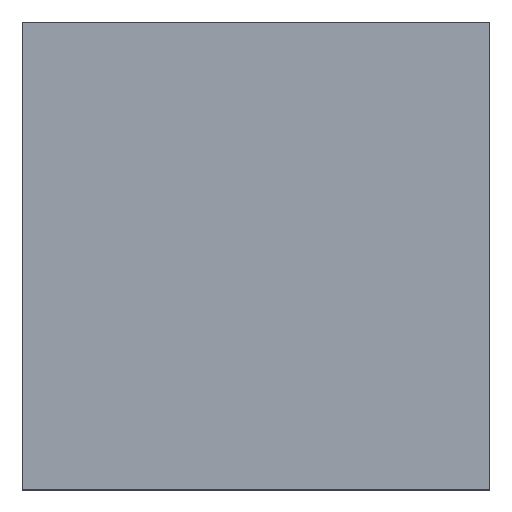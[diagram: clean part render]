
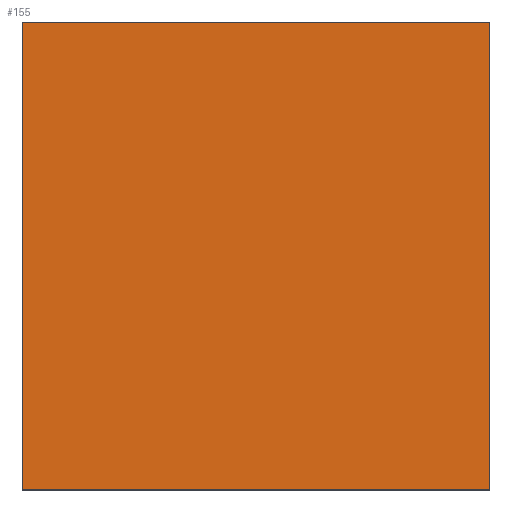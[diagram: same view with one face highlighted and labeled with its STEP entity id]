
A CAD part, top view. The second image highlights one B-rep face of the part: STEP entity #155.
In plain terms, the highlighted planar face has unit normal (0, 0, 1).
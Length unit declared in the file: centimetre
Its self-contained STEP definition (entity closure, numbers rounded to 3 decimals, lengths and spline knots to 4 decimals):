
#23 = EDGE_CURVE ( 'NONE', #517, #112, #136, .T. ) ;
#26 = LINE ( 'NONE', #531, #127 ) ;
#38 = DIRECTION ( 'NONE',  ( 0., 1., 0. ) ) ;
#42 = VERTEX_POINT ( 'NONE', #577 ) ;
#53 = DIRECTION ( 'NONE',  ( 0., 0., 1. ) ) ;
#55 = VECTOR ( 'NONE', #38, 100. ) ;
#67 = VERTEX_POINT ( 'NONE', #503 ) ;
#95 = EDGE_CURVE ( 'NONE', #112, #42, #309, .T. ) ;
#100 = ORIENTED_EDGE ( 'NONE', *, *, #452, .T. ) ;
#111 = DIRECTION ( 'NONE',  ( 1., 0., 0. ) ) ;
#112 = VERTEX_POINT ( 'NONE', #409 ) ;
#116 = VECTOR ( 'NONE', #186, 100. ) ;
#117 = ORIENTED_EDGE ( 'NONE', *, *, #23, .T. ) ;
#127 = VECTOR ( 'NONE', #130, 100. ) ;
#130 = DIRECTION ( 'NONE',  ( 0., -1., 0. ) ) ;
#136 = LINE ( 'NONE', #398, #55 ) ;
#155 = ADVANCED_FACE ( 'NONE', ( #364 ), #462, .T. ) ;
#167 = CARTESIAN_POINT ( 'NONE',  ( 1000., 0., 1000. ) ) ;
#184 = EDGE_LOOP ( 'NONE', ( #228, #100, #117, #317 ) ) ;
#186 = DIRECTION ( 'NONE',  ( -1., 0., 0. ) ) ;
#200 = CARTESIAN_POINT ( 'NONE',  ( 0., 0., 1000. ) ) ;
#202 = VECTOR ( 'NONE', #111, 100. ) ;
#228 = ORIENTED_EDGE ( 'NONE', *, *, #406, .T. ) ;
#230 = CARTESIAN_POINT ( 'NONE',  ( 0., 0., 1000. ) ) ;
#309 = LINE ( 'NONE', #546, #116 ) ;
#317 = ORIENTED_EDGE ( 'NONE', *, *, #95, .T. ) ;
#364 = FACE_OUTER_BOUND ( 'NONE', #184, .T. ) ;
#398 = CARTESIAN_POINT ( 'NONE',  ( 1000., 1000., 1000. ) ) ;
#406 = EDGE_CURVE ( 'NONE', #42, #67, #26, .T. ) ;
#409 = CARTESIAN_POINT ( 'NONE',  ( 1000., 1000., 1000. ) ) ;
#412 = DIRECTION ( 'NONE',  ( 1., 0., 0. ) ) ;
#427 = LINE ( 'NONE', #200, #202 ) ;
#452 = EDGE_CURVE ( 'NONE', #67, #517, #427, .T. ) ;
#462 = PLANE ( 'NONE',  #527 ) ;
#503 = CARTESIAN_POINT ( 'NONE',  ( 0., 0., 1000. ) ) ;
#517 = VERTEX_POINT ( 'NONE', #167 ) ;
#527 = AXIS2_PLACEMENT_3D ( 'NONE', #230, #53, #412 ) ;
#531 = CARTESIAN_POINT ( 'NONE',  ( 0., 1000., 1000. ) ) ;
#546 = CARTESIAN_POINT ( 'NONE',  ( 0., 1000., 1000. ) ) ;
#577 = CARTESIAN_POINT ( 'NONE',  ( 0., 1000., 1000. ) ) ;
